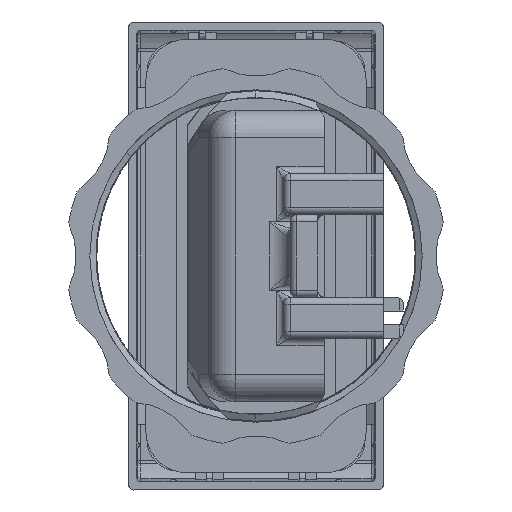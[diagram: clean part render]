
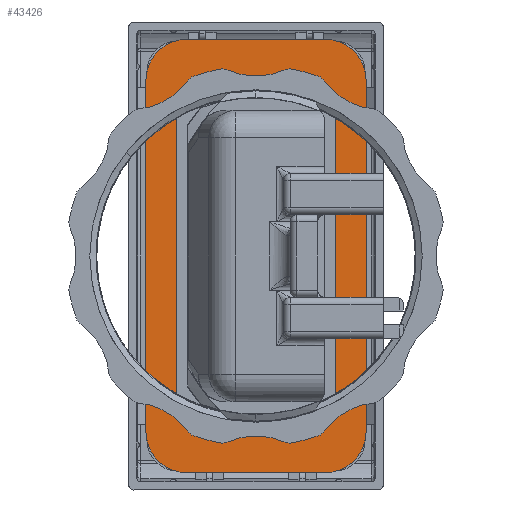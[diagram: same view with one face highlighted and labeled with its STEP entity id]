
A CAD part, left-side view. The second image highlights one B-rep face of the part: STEP entity #43426.
In plain terms, the highlighted planar face has unit normal (-1, 0, 0).
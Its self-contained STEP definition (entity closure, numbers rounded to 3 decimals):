
#43071=DIRECTION('',(0.,-1.,0.));
#43072=VECTOR('',#43071,20.);
#43073=CARTESIAN_POINT('',(-3.,10.,31.5));
#43074=LINE('',#43073,#43072);
#43075=CARTESIAN_POINT('',(-3.,-10.,25.5));
#43076=DIRECTION('',(1.,0.,0.));
#43077=DIRECTION('',(0.,0.,1.));
#43078=AXIS2_PLACEMENT_3D('',#43075,#43076,#43077);
#43080=DIRECTION('',(0.,0.,-1.));
#43081=VECTOR('',#43080,51.);
#43082=CARTESIAN_POINT('',(-3.,-16.,25.5));
#43083=LINE('',#43082,#43081);
#43084=CARTESIAN_POINT('',(-3.,-10.,-25.5));
#43085=DIRECTION('',(1.,0.,0.));
#43086=DIRECTION('',(0.,-1.,0.));
#43087=AXIS2_PLACEMENT_3D('',#43084,#43085,#43086);
#43089=DIRECTION('',(0.,1.,0.));
#43090=VECTOR('',#43089,20.);
#43091=CARTESIAN_POINT('',(-3.,-10.,-31.5));
#43092=LINE('',#43091,#43090);
#43093=CARTESIAN_POINT('',(-3.,10.,-25.5));
#43094=DIRECTION('',(1.,0.,0.));
#43095=DIRECTION('',(0.,0.,-1.));
#43096=AXIS2_PLACEMENT_3D('',#43093,#43094,#43095);
#43098=DIRECTION('',(0.,0.,1.));
#43099=VECTOR('',#43098,51.);
#43100=CARTESIAN_POINT('',(-3.,16.,-25.5));
#43101=LINE('',#43100,#43099);
#43102=CARTESIAN_POINT('',(-3.,10.,25.5));
#43103=DIRECTION('',(1.,0.,0.));
#43104=DIRECTION('',(0.,1.,0.));
#43105=AXIS2_PLACEMENT_3D('',#43102,#43103,#43104);
#43107=CARTESIAN_POINT('',(-3.,7.5,21.5));
#43108=DIRECTION('',(-1.,0.,0.));
#43109=DIRECTION('',(0.,0.,1.));
#43110=AXIS2_PLACEMENT_3D('',#43107,#43108,#43109);
#43112=DIRECTION('',(0.,0.,-1.));
#43113=VECTOR('',#43112,43.);
#43114=CARTESIAN_POINT('',(-3.,11.5,21.5));
#43115=LINE('',#43114,#43113);
#43116=CARTESIAN_POINT('',(-3.,7.5,-21.5));
#43117=DIRECTION('',(-1.,0.,0.));
#43118=DIRECTION('',(0.,1.,0.));
#43119=AXIS2_PLACEMENT_3D('',#43116,#43117,#43118);
#43121=DIRECTION('',(0.,-1.,0.));
#43122=VECTOR('',#43121,15.);
#43123=CARTESIAN_POINT('',(-3.,7.5,-25.5));
#43124=LINE('',#43123,#43122);
#43125=CARTESIAN_POINT('',(-3.,-7.5,-21.5));
#43126=DIRECTION('',(-1.,0.,0.));
#43127=DIRECTION('',(0.,0.,-1.));
#43128=AXIS2_PLACEMENT_3D('',#43125,#43126,#43127);
#43130=DIRECTION('',(0.,0.,1.));
#43131=VECTOR('',#43130,43.);
#43132=CARTESIAN_POINT('',(-3.,-11.5,-21.5));
#43133=LINE('',#43132,#43131);
#43134=CARTESIAN_POINT('',(-3.,-7.5,21.5));
#43135=DIRECTION('',(-1.,0.,0.));
#43136=DIRECTION('',(0.,-1.,0.));
#43137=AXIS2_PLACEMENT_3D('',#43134,#43135,#43136);
#43139=DIRECTION('',(0.,1.,0.));
#43140=VECTOR('',#43139,15.);
#43141=CARTESIAN_POINT('',(-3.,-7.5,25.5));
#43142=LINE('',#43141,#43140);
#43207=CARTESIAN_POINT('',(-3.,16.,25.5));
#43208=VERTEX_POINT('',#43207);
#43209=CARTESIAN_POINT('',(-3.,10.,31.5));
#43210=VERTEX_POINT('',#43209);
#43211=CARTESIAN_POINT('',(-3.,16.,-25.5));
#43212=VERTEX_POINT('',#43211);
#43213=CARTESIAN_POINT('',(-3.,10.,-31.5));
#43214=VERTEX_POINT('',#43213);
#43215=CARTESIAN_POINT('',(-3.,-10.,-31.5));
#43216=VERTEX_POINT('',#43215);
#43217=CARTESIAN_POINT('',(-3.,-16.,-25.5));
#43218=VERTEX_POINT('',#43217);
#43219=CARTESIAN_POINT('',(-3.,-16.,25.5));
#43220=VERTEX_POINT('',#43219);
#43221=CARTESIAN_POINT('',(-3.,-10.,31.5));
#43222=VERTEX_POINT('',#43221);
#43223=CARTESIAN_POINT('',(-3.,7.5,25.5));
#43224=CARTESIAN_POINT('',(-3.,11.5,21.5));
#43225=VERTEX_POINT('',#43223);
#43226=VERTEX_POINT('',#43224);
#43227=CARTESIAN_POINT('',(-3.,11.5,-21.5));
#43228=VERTEX_POINT('',#43227);
#43229=CARTESIAN_POINT('',(-3.,7.5,-25.5));
#43230=VERTEX_POINT('',#43229);
#43231=CARTESIAN_POINT('',(-3.,-7.5,-25.5));
#43232=VERTEX_POINT('',#43231);
#43233=CARTESIAN_POINT('',(-3.,-11.5,-21.5));
#43234=VERTEX_POINT('',#43233);
#43235=CARTESIAN_POINT('',(-3.,-11.5,21.5));
#43236=VERTEX_POINT('',#43235);
#43237=CARTESIAN_POINT('',(-3.,-7.5,25.5));
#43238=VERTEX_POINT('',#43237);
#43393=CARTESIAN_POINT('',(-3.,0.,0.));
#43394=DIRECTION('',(1.,0.,0.));
#43395=DIRECTION('',(0.,1.,0.));
#43396=AXIS2_PLACEMENT_3D('',#43393,#43394,#43395);
#43397=PLANE('',#43396);
#43398=ORIENTED_EDGE('',*,*,#43388,.T.);
#43399=ORIENTED_EDGE('',*,*,#43375,.T.);
#43400=ORIENTED_EDGE('',*,*,#43361,.T.);
#43401=ORIENTED_EDGE('',*,*,#43347,.T.);
#43402=ORIENTED_EDGE('',*,*,#43333,.T.);
#43403=ORIENTED_EDGE('',*,*,#43319,.T.);
#43404=ORIENTED_EDGE('',*,*,#43305,.T.);
#43405=ORIENTED_EDGE('',*,*,#43291,.T.);
#43406=EDGE_LOOP('',(#43398,#43399,#43400,#43401,#43402,#43403,#43404,#43405));
#43407=FACE_OUTER_BOUND('',#43406,.F.);
#43409=ORIENTED_EDGE('',*,*,#43408,.T.);
#43411=ORIENTED_EDGE('',*,*,#43410,.T.);
#43413=ORIENTED_EDGE('',*,*,#43412,.T.);
#43415=ORIENTED_EDGE('',*,*,#43414,.T.);
#43417=ORIENTED_EDGE('',*,*,#43416,.T.);
#43419=ORIENTED_EDGE('',*,*,#43418,.T.);
#43421=ORIENTED_EDGE('',*,*,#43420,.T.);
#43423=ORIENTED_EDGE('',*,*,#43422,.T.);
#43424=EDGE_LOOP('',(#43409,#43411,#43413,#43415,#43417,#43419,#43421,#43423));
#43425=FACE_BOUND('',#43424,.F.);
#43426=ADVANCED_FACE('',(#43407,#43425),#43397,.F.);
#43079=CIRCLE('',#43078,6.);
#43088=CIRCLE('',#43087,6.);
#43097=CIRCLE('',#43096,6.);
#43106=CIRCLE('',#43105,6.);
#43111=CIRCLE('',#43110,4.);
#43120=CIRCLE('',#43119,4.);
#43129=CIRCLE('',#43128,4.);
#43138=CIRCLE('',#43137,4.);
#43291=EDGE_CURVE('',#43208,#43210,#43106,.T.);
#43305=EDGE_CURVE('',#43212,#43208,#43101,.T.);
#43319=EDGE_CURVE('',#43214,#43212,#43097,.T.);
#43333=EDGE_CURVE('',#43216,#43214,#43092,.T.);
#43347=EDGE_CURVE('',#43218,#43216,#43088,.T.);
#43361=EDGE_CURVE('',#43220,#43218,#43083,.T.);
#43375=EDGE_CURVE('',#43222,#43220,#43079,.T.);
#43388=EDGE_CURVE('',#43210,#43222,#43074,.T.);
#43408=EDGE_CURVE('',#43225,#43226,#43111,.T.);
#43410=EDGE_CURVE('',#43226,#43228,#43115,.T.);
#43412=EDGE_CURVE('',#43228,#43230,#43120,.T.);
#43414=EDGE_CURVE('',#43230,#43232,#43124,.T.);
#43416=EDGE_CURVE('',#43232,#43234,#43129,.T.);
#43418=EDGE_CURVE('',#43234,#43236,#43133,.T.);
#43420=EDGE_CURVE('',#43236,#43238,#43138,.T.);
#43422=EDGE_CURVE('',#43238,#43225,#43142,.T.);
